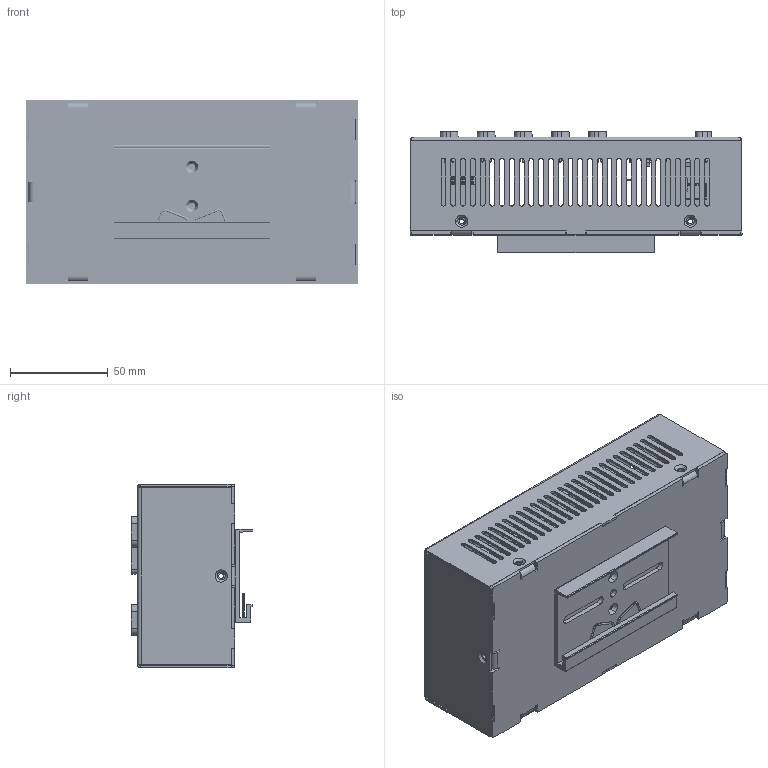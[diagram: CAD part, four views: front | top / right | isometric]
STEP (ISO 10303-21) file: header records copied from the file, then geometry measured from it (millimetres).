
FILE_DESCRIPTION (( 'STEP AP203' ), '1' );
FILE_NAME ('MC7784.STEP', '2023-03-15T03:12:31', ( 'Microsoft' ), ( 'Microsoft' ), 'SwSTEP 2.0', 'SolidWorks 2020', '' );
FILE_SCHEMA (( 'CONFIG_CONTROL_DESIGN' ));
Length unit declared in the file: millimetre
Products named in the file (6): MC7784; MC7784 菁啣 鍼踢V2.0; MC7784 奻褲 鍼踢A V2.0; 80縐諶; 奻啣1; 笢啣
Assembly tree (5 placements, depth 2):
  MC7784
    MC7784 菁啣 鍼踢V2.0
    MC7784 奻褲 鍼踢A V2.0
    80縐諶
    笢啣
    奻啣1
Bounding box: 170 x 62.36 x 94 mm (x, y, z)
Volume: 87264 mm3; surface area: 147282.1 mm2
Topology: 20 solids, 270 shells, 4192 faces, 12625 edges, 8476 vertices
Faces by surface type: plane 2299, cylinder 883, cone 788, bspline 212, torus 8, sphere 2
Entity records: 158906 total; most frequent: CARTESIAN_POINT 46092, DIRECTION 23186, ORIENTED_EDGE 21426, EDGE_CURVE 12502, VECTOR 9100, LINE 9100, VERTEX_POINT 8473, AXIS2_PLACEMENT_3D 7043
